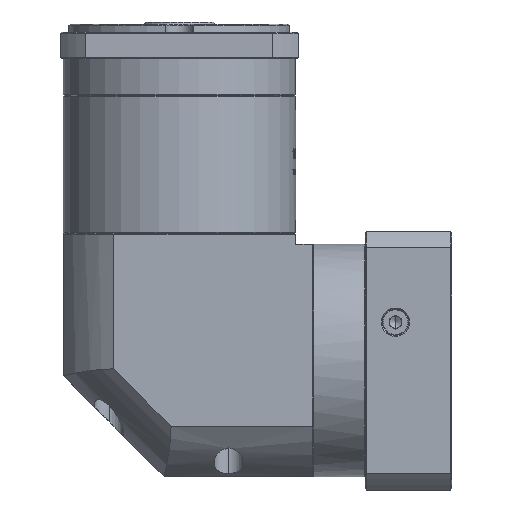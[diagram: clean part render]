
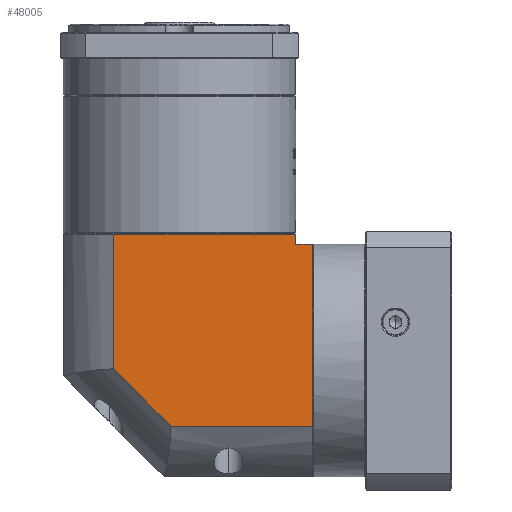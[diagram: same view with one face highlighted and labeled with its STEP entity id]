
A CAD part, left-side view. The second image highlights one B-rep face of the part: STEP entity #48005.
In plain terms, the highlighted planar face has unit normal (-1, 0, 0).
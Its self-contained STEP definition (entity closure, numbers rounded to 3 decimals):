
#861 = ORIENTED_EDGE ( 'NONE', *, *, #45136, .F. ) ;
#3374 = ORIENTED_EDGE ( 'NONE', *, *, #77827, .T. ) ;
#4694 = EDGE_CURVE ( 'NONE', #70712, #133647, #136769, .T. ) ;
#7195 = ORIENTED_EDGE ( 'NONE', *, *, #164246, .F. ) ;
#10754 = CARTESIAN_POINT ( 'NONE',  ( -216.152, -136.304, 120.758 ) ) ;
#16967 = DIRECTION ( 'NONE',  ( 0., 0., 1. ) ) ;
#21227 = LINE ( 'NONE', #144996, #128155 ) ;
#24845 = ORIENTED_EDGE ( 'NONE', *, *, #159289, .F. ) ;
#30545 = VERTEX_POINT ( 'NONE', #84480 ) ;
#34507 = DIRECTION ( 'NONE',  ( 0., 0., -1. ) ) ;
#37515 = VECTOR ( 'NONE', #162590, 1000. ) ;
#40633 = CARTESIAN_POINT ( 'NONE',  ( -216.152, -12.904, 125.758 ) ) ;
#45136 = EDGE_CURVE ( 'NONE', #86057, #70712, #157931, .T. ) ;
#48005 = ADVANCED_FACE ( 'NONE', ( #114365 ), #96610, .F. ) ;
#52417 = CARTESIAN_POINT ( 'NONE',  ( -216.152, -38.004, 125.758 ) ) ;
#54955 = CARTESIAN_POINT ( 'NONE',  ( -216.152, -66.343, 30.858 ) ) ;
#58699 = ORIENTED_EDGE ( 'NONE', *, *, #4694, .F. ) ;
#60647 = VECTOR ( 'NONE', #129813, 1000. ) ;
#63028 = VECTOR ( 'NONE', #34507, 1000. ) ;
#65016 = EDGE_LOOP ( 'NONE', ( #7195, #58699, #861, #153209, #3374, #100418, #24845 ) ) ;
#67233 = CARTESIAN_POINT ( 'NONE',  ( -216.152, -136.304, 30.858 ) ) ;
#70712 = VERTEX_POINT ( 'NONE', #54955 ) ;
#74913 = LINE ( 'NONE', #40633, #132217 ) ;
#77827 = EDGE_CURVE ( 'NONE', #122144, #30545, #94355, .T. ) ;
#82002 = VECTOR ( 'NONE', #141127, 1000. ) ;
#84480 = CARTESIAN_POINT ( 'NONE',  ( -216.152, -127.904, 120.758 ) ) ;
#86057 = VERTEX_POINT ( 'NONE', #67233 ) ;
#87276 = CARTESIAN_POINT ( 'NONE',  ( -216.152, -66.343, 30.858 ) ) ;
#90555 = VECTOR ( 'NONE', #124444, 1000. ) ;
#94355 = LINE ( 'NONE', #114364, #60647 ) ;
#96610 = PLANE ( 'NONE',  #101188 ) ;
#100237 = VERTEX_POINT ( 'NONE', #52417 ) ;
#100418 = ORIENTED_EDGE ( 'NONE', *, *, #135294, .T. ) ;
#101188 = AXIS2_PLACEMENT_3D ( 'NONE', #109347, #108832, #110974 ) ;
#101226 = CARTESIAN_POINT ( 'NONE',  ( -216.152, -127.904, 5.758 ) ) ;
#108832 = DIRECTION ( 'NONE',  ( 1., 0., 0. ) ) ;
#109347 = CARTESIAN_POINT ( 'NONE',  ( -216.152, -12.904, 132.258 ) ) ;
#110974 = DIRECTION ( 'NONE',  ( 0., 1., 0. ) ) ;
#114358 = DIRECTION ( 'NONE',  ( 0., -1., 0. ) ) ;
#114365 = FACE_OUTER_BOUND ( 'NONE', #65016, .T. ) ;
#114364 = CARTESIAN_POINT ( 'NONE',  ( -216.152, -127.904, 120.758 ) ) ;
#118751 = EDGE_CURVE ( 'NONE', #122144, #86057, #160150, .T. ) ;
#122144 = VERTEX_POINT ( 'NONE', #10754 ) ;
#124444 = DIRECTION ( 'NONE',  ( 0., 1., 0. ) ) ;
#128155 = VECTOR ( 'NONE', #16967, 1000. ) ;
#129813 = DIRECTION ( 'NONE',  ( 0., 1., 0. ) ) ;
#130507 = VERTEX_POINT ( 'NONE', #156390 ) ;
#132217 = VECTOR ( 'NONE', #114358, 1000. ) ;
#133647 = VERTEX_POINT ( 'NONE', #151782 ) ;
#135294 = EDGE_CURVE ( 'NONE', #30545, #130507, #137402, .T. ) ;
#136769 = LINE ( 'NONE', #87276, #37515 ) ;
#137402 = LINE ( 'NONE', #101226, #82002 ) ;
#139409 = CARTESIAN_POINT ( 'NONE',  ( -216.152, -12.904, 30.858 ) ) ;
#141127 = DIRECTION ( 'NONE',  ( 0., 0., 1. ) ) ;
#144996 = CARTESIAN_POINT ( 'NONE',  ( -216.152, -38.004, 132.258 ) ) ;
#151782 = CARTESIAN_POINT ( 'NONE',  ( -216.152, -38.004, 59.196 ) ) ;
#153209 = ORIENTED_EDGE ( 'NONE', *, *, #118751, .F. ) ;
#156390 = CARTESIAN_POINT ( 'NONE',  ( -216.152, -127.904, 125.758 ) ) ;
#157931 = LINE ( 'NONE', #139409, #90555 ) ;
#159289 = EDGE_CURVE ( 'NONE', #100237, #130507, #74913, .T. ) ;
#160150 = LINE ( 'NONE', #160876, #63028 ) ;
#160876 = CARTESIAN_POINT ( 'NONE',  ( -216.152, -136.304, 132.258 ) ) ;
#162590 = DIRECTION ( 'NONE',  ( 0., 0.707, 0.707 ) ) ;
#164246 = EDGE_CURVE ( 'NONE', #133647, #100237, #21227, .T. ) ;
